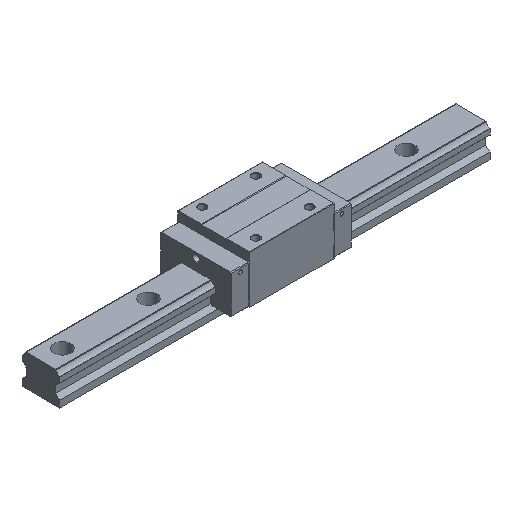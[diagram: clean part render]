
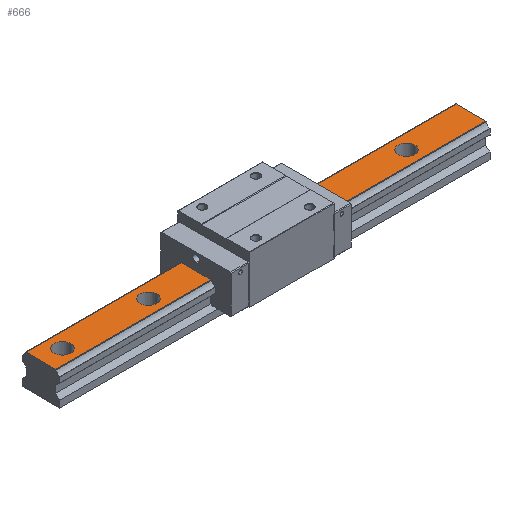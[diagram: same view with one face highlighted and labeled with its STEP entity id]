
A CAD part, isometric view. The second image highlights one B-rep face of the part: STEP entity #666.
In plain terms, the highlighted planar face has unit normal (0, 0, 1).
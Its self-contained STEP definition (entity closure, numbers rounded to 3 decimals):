
#44 = CARTESIAN_POINT ( 'NONE',  ( -270., 0., 44. ) ) ;
#53 = AXIS2_PLACEMENT_3D ( 'NONE', #4344, #1889, #1433 ) ;
#59 = EDGE_CURVE ( 'NONE', #4347, #1445, #3805, .T. ) ;
#118 = CIRCLE ( 'NONE', #2508, 11.5 ) ;
#126 = DIRECTION ( 'NONE',  ( -1., 0., 0. ) ) ;
#133 = DIRECTION ( 'NONE',  ( 1., 0., 0. ) ) ;
#189 = AXIS2_PLACEMENT_3D ( 'NONE', #3031, #3937, #913 ) ;
#236 = VERTEX_POINT ( 'NONE', #598 ) ;
#263 = ORIENTED_EDGE ( 'NONE', *, *, #3828, .T. ) ;
#310 = DIRECTION ( 'NONE',  ( 0., 0., 1. ) ) ;
#318 = FACE_BOUND ( 'NONE', #1494, .T. ) ;
#393 = DIRECTION ( 'NONE',  ( 0., 0., 1. ) ) ;
#413 = AXIS2_PLACEMENT_3D ( 'NONE', #44, #2609, #5056 ) ;
#454 = VERTEX_POINT ( 'NONE', #4804 ) ;
#516 = EDGE_CURVE ( 'NONE', #5292, #2126, #2650, .T. ) ;
#551 = CARTESIAN_POINT ( 'NONE',  ( -161.5, 0., 44. ) ) ;
#598 = CARTESIAN_POINT ( 'NONE',  ( 198.5, 0., 44. ) ) ;
#599 = CARTESIAN_POINT ( 'NONE',  ( -150., 0., 44. ) ) ;
#602 = EDGE_CURVE ( 'NONE', #999, #5339, #1215, .T. ) ;
#666 = ADVANCED_FACE ( 'NONE', ( #4888, #2775, #4914, #318, #1597, #1944 ), #2364, .F. ) ;
#713 = CARTESIAN_POINT ( 'NONE',  ( 300., -20.894, 44. ) ) ;
#750 = AXIS2_PLACEMENT_3D ( 'NONE', #599, #4788, #1931 ) ;
#795 = VECTOR ( 'NONE', #5273, 1000. ) ;
#827 = CARTESIAN_POINT ( 'NONE',  ( 300., 20.894, 44. ) ) ;
#879 = CARTESIAN_POINT ( 'NONE',  ( 90., 0., 44. ) ) ;
#913 = DIRECTION ( 'NONE',  ( 1., 0., 0. ) ) ;
#938 = CIRCLE ( 'NONE', #413, 11.5 ) ;
#942 = ORIENTED_EDGE ( 'NONE', *, *, #4730, .F. ) ;
#960 = DIRECTION ( 'NONE',  ( -1., 0., 0. ) ) ;
#974 = AXIS2_PLACEMENT_3D ( 'NONE', #879, #1740, #3419 ) ;
#996 = DIRECTION ( 'NONE',  ( 0., 0., 1. ) ) ;
#999 = VERTEX_POINT ( 'NONE', #2823 ) ;
#1025 = ORIENTED_EDGE ( 'NONE', *, *, #2538, .F. ) ;
#1031 = CIRCLE ( 'NONE', #3235, 11.5 ) ;
#1158 = CARTESIAN_POINT ( 'NONE',  ( 300., -20.894, 44. ) ) ;
#1203 = CIRCLE ( 'NONE', #5055, 11.5 ) ;
#1215 = LINE ( 'NONE', #2389, #795 ) ;
#1307 = CARTESIAN_POINT ( 'NONE',  ( 210., 0., 44. ) ) ;
#1415 = VERTEX_POINT ( 'NONE', #713 ) ;
#1433 = DIRECTION ( 'NONE',  ( 1., 0., 0. ) ) ;
#1445 = VERTEX_POINT ( 'NONE', #3227 ) ;
#1460 = DIRECTION ( 'NONE',  ( 0., 0., 1. ) ) ;
#1494 = EDGE_LOOP ( 'NONE', ( #942, #2100 ) ) ;
#1507 = VERTEX_POINT ( 'NONE', #1713 ) ;
#1597 = FACE_BOUND ( 'NONE', #2162, .T. ) ;
#1641 = ORIENTED_EDGE ( 'NONE', *, *, #602, .T. ) ;
#1707 = CARTESIAN_POINT ( 'NONE',  ( -258.5, 0., 44. ) ) ;
#1713 = CARTESIAN_POINT ( 'NONE',  ( 221.5, 0., 44. ) ) ;
#1740 = DIRECTION ( 'NONE',  ( 0., 0., 1. ) ) ;
#1754 = EDGE_CURVE ( 'NONE', #1415, #5339, #4300, .T. ) ;
#1865 = CIRCLE ( 'NONE', #3799, 11.5 ) ;
#1886 = ORIENTED_EDGE ( 'NONE', *, *, #2801, .F. ) ;
#1889 = DIRECTION ( 'NONE',  ( 0., 0., 1. ) ) ;
#1927 = ORIENTED_EDGE ( 'NONE', *, *, #516, .F. ) ;
#1931 = DIRECTION ( 'NONE',  ( 1., 0., 0. ) ) ;
#1944 = FACE_OUTER_BOUND ( 'NONE', #4414, .T. ) ;
#1972 = CARTESIAN_POINT ( 'NONE',  ( -270., 0., 44. ) ) ;
#2002 = EDGE_LOOP ( 'NONE', ( #1886, #1025 ) ) ;
#2055 = VERTEX_POINT ( 'NONE', #1707 ) ;
#2100 = ORIENTED_EDGE ( 'NONE', *, *, #3365, .F. ) ;
#2118 = VECTOR ( 'NONE', #960, 1000. ) ;
#2126 = VERTEX_POINT ( 'NONE', #2193 ) ;
#2162 = EDGE_LOOP ( 'NONE', ( #2722, #2835 ) ) ;
#2193 = CARTESIAN_POINT ( 'NONE',  ( 78.5, 0., 44. ) ) ;
#2284 = ORIENTED_EDGE ( 'NONE', *, *, #59, .F. ) ;
#2297 = EDGE_CURVE ( 'NONE', #2943, #2055, #1865, .T. ) ;
#2324 = EDGE_CURVE ( 'NONE', #4966, #1415, #4007, .T. ) ;
#2364 = PLANE ( 'NONE',  #2920 ) ;
#2389 = CARTESIAN_POINT ( 'NONE',  ( -300., -20.894, 44. ) ) ;
#2486 = DIRECTION ( 'NONE',  ( 1., 0., 0. ) ) ;
#2508 = AXIS2_PLACEMENT_3D ( 'NONE', #3913, #996, #133 ) ;
#2538 = EDGE_CURVE ( 'NONE', #236, #1507, #118, .T. ) ;
#2609 = DIRECTION ( 'NONE',  ( 0., 0., 1. ) ) ;
#2650 = CIRCLE ( 'NONE', #974, 11.5 ) ;
#2722 = ORIENTED_EDGE ( 'NONE', *, *, #4032, .F. ) ;
#2725 = CARTESIAN_POINT ( 'NONE',  ( 300., 20.894, 44. ) ) ;
#2753 = DIRECTION ( 'NONE',  ( 0., -1., 0. ) ) ;
#2772 = EDGE_CURVE ( 'NONE', #2126, #5292, #1203, .T. ) ;
#2775 = FACE_BOUND ( 'NONE', #5446, .T. ) ;
#2801 = EDGE_CURVE ( 'NONE', #1507, #236, #4355, .T. ) ;
#2823 = CARTESIAN_POINT ( 'NONE',  ( -300., 20.894, 44. ) ) ;
#2835 = ORIENTED_EDGE ( 'NONE', *, *, #2297, .F. ) ;
#2911 = ORIENTED_EDGE ( 'NONE', *, *, #1754, .F. ) ;
#2920 = AXIS2_PLACEMENT_3D ( 'NONE', #1158, #4031, #4563 ) ;
#2943 = VERTEX_POINT ( 'NONE', #3218 ) ;
#2988 = ORIENTED_EDGE ( 'NONE', *, *, #2324, .F. ) ;
#2994 = EDGE_LOOP ( 'NONE', ( #2284, #5305 ) ) ;
#3031 = CARTESIAN_POINT ( 'NONE',  ( -30., 0., 44. ) ) ;
#3218 = CARTESIAN_POINT ( 'NONE',  ( -281.5, 0., 44. ) ) ;
#3227 = CARTESIAN_POINT ( 'NONE',  ( -41.5, 0., 44. ) ) ;
#3235 = AXIS2_PLACEMENT_3D ( 'NONE', #5372, #310, #3261 ) ;
#3261 = DIRECTION ( 'NONE',  ( 1., 0., 0. ) ) ;
#3319 = CARTESIAN_POINT ( 'NONE',  ( -300., -20.894, 44. ) ) ;
#3361 = VECTOR ( 'NONE', #2753, 1000. ) ;
#3365 = EDGE_CURVE ( 'NONE', #4879, #454, #4623, .T. ) ;
#3394 = CARTESIAN_POINT ( 'NONE',  ( 90., 0., 44. ) ) ;
#3419 = DIRECTION ( 'NONE',  ( 1., 0., 0. ) ) ;
#3799 = AXIS2_PLACEMENT_3D ( 'NONE', #1972, #1460, #4424 ) ;
#3805 = CIRCLE ( 'NONE', #189, 11.5 ) ;
#3828 = EDGE_CURVE ( 'NONE', #4966, #999, #4840, .T. ) ;
#3835 = VECTOR ( 'NONE', #126, 1000. ) ;
#3913 = CARTESIAN_POINT ( 'NONE',  ( 210., 0., 44. ) ) ;
#3937 = DIRECTION ( 'NONE',  ( 0., 0., 1. ) ) ;
#4007 = LINE ( 'NONE', #4890, #3361 ) ;
#4031 = DIRECTION ( 'NONE',  ( 0., 0., -1. ) ) ;
#4032 = EDGE_CURVE ( 'NONE', #2055, #2943, #938, .T. ) ;
#4171 = EDGE_CURVE ( 'NONE', #1445, #4347, #4800, .T. ) ;
#4300 = LINE ( 'NONE', #4732, #2118 ) ;
#4344 = CARTESIAN_POINT ( 'NONE',  ( -30., 0., 44. ) ) ;
#4347 = VERTEX_POINT ( 'NONE', #4452 ) ;
#4355 = CIRCLE ( 'NONE', #4707, 11.5 ) ;
#4414 = EDGE_LOOP ( 'NONE', ( #1641, #2911, #2988, #263 ) ) ;
#4424 = DIRECTION ( 'NONE',  ( 1., 0., 0. ) ) ;
#4452 = CARTESIAN_POINT ( 'NONE',  ( -18.5, 0., 44. ) ) ;
#4559 = CARTESIAN_POINT ( 'NONE',  ( 101.5, 0., 44. ) ) ;
#4562 = ORIENTED_EDGE ( 'NONE', *, *, #2772, .F. ) ;
#4563 = DIRECTION ( 'NONE',  ( 0., -1., 0. ) ) ;
#4623 = CIRCLE ( 'NONE', #750, 11.5 ) ;
#4707 = AXIS2_PLACEMENT_3D ( 'NONE', #1307, #393, #4982 ) ;
#4730 = EDGE_CURVE ( 'NONE', #454, #4879, #1031, .T. ) ;
#4732 = CARTESIAN_POINT ( 'NONE',  ( 300., -20.894, 44. ) ) ;
#4788 = DIRECTION ( 'NONE',  ( 0., 0., 1. ) ) ;
#4800 = CIRCLE ( 'NONE', #53, 11.5 ) ;
#4804 = CARTESIAN_POINT ( 'NONE',  ( -138.5, 0., 44. ) ) ;
#4840 = LINE ( 'NONE', #2725, #3835 ) ;
#4879 = VERTEX_POINT ( 'NONE', #551 ) ;
#4888 = FACE_BOUND ( 'NONE', #2002, .T. ) ;
#4890 = CARTESIAN_POINT ( 'NONE',  ( 300., -20.894, 44. ) ) ;
#4914 = FACE_BOUND ( 'NONE', #2994, .T. ) ;
#4966 = VERTEX_POINT ( 'NONE', #827 ) ;
#4982 = DIRECTION ( 'NONE',  ( 1., 0., 0. ) ) ;
#5008 = DIRECTION ( 'NONE',  ( 0., 0., 1. ) ) ;
#5055 = AXIS2_PLACEMENT_3D ( 'NONE', #3394, #5008, #2486 ) ;
#5056 = DIRECTION ( 'NONE',  ( 1., 0., 0. ) ) ;
#5273 = DIRECTION ( 'NONE',  ( 0., -1., 0. ) ) ;
#5292 = VERTEX_POINT ( 'NONE', #4559 ) ;
#5305 = ORIENTED_EDGE ( 'NONE', *, *, #4171, .F. ) ;
#5339 = VERTEX_POINT ( 'NONE', #3319 ) ;
#5372 = CARTESIAN_POINT ( 'NONE',  ( -150., 0., 44. ) ) ;
#5446 = EDGE_LOOP ( 'NONE', ( #1927, #4562 ) ) ;
